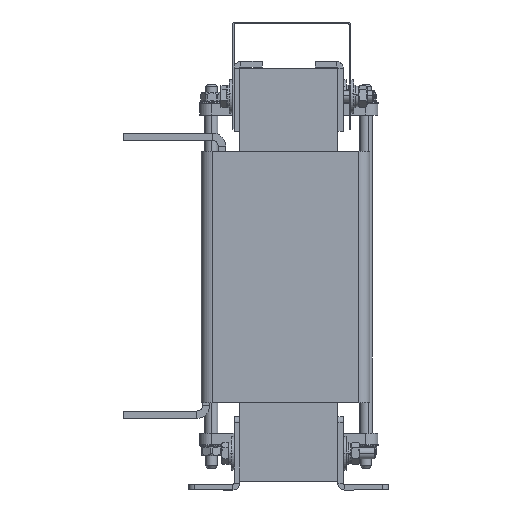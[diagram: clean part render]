
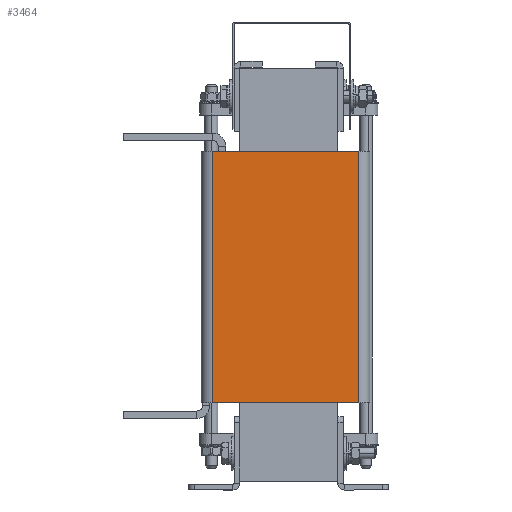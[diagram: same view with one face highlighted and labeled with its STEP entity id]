
A CAD part, left-side view. The second image highlights one B-rep face of the part: STEP entity #3464.
In plain terms, the highlighted planar face has unit normal (-1, 0, 0).
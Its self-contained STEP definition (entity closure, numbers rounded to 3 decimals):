
#336 = EDGE_CURVE ( 'NONE', #4511, #5518, #5379, .T. ) ;
#531 = FACE_OUTER_BOUND ( 'NONE', #11763, .T. ) ;
#2752 = LINE ( 'NONE', #12313, #11754 ) ;
#2825 = EDGE_CURVE ( 'NONE', #4511, #11394, #2752, .T. ) ;
#3123 = VECTOR ( 'NONE', #7487, 1000. ) ;
#3288 = ORIENTED_EDGE ( 'NONE', *, *, #4440, .T. ) ;
#3464 = ADVANCED_FACE ( 'NONE', ( #531 ), #12237, .T. ) ;
#3611 = DIRECTION ( 'NONE',  ( 0., 0., -1. ) ) ;
#3729 = ORIENTED_EDGE ( 'NONE', *, *, #2825, .T. ) ;
#4191 = CARTESIAN_POINT ( 'NONE',  ( -44.5, 77.5, 0. ) ) ;
#4440 = EDGE_CURVE ( 'NONE', #5112, #5518, #6980, .T. ) ;
#4511 = VERTEX_POINT ( 'NONE', #11141 ) ;
#5112 = VERTEX_POINT ( 'NONE', #12564 ) ;
#5372 = ORIENTED_EDGE ( 'NONE', *, *, #12470, .T. ) ;
#5379 = LINE ( 'NONE', #4191, #3123 ) ;
#5518 = VERTEX_POINT ( 'NONE', #10309 ) ;
#5846 = DIRECTION ( 'NONE',  ( 0., -1., 0. ) ) ;
#5921 = CARTESIAN_POINT ( 'NONE',  ( -44.5, 77.5, -223. ) ) ;
#6980 = LINE ( 'NONE', #8969, #11629 ) ;
#7081 = DIRECTION ( 'NONE',  ( -1., 0., 0. ) ) ;
#7487 = DIRECTION ( 'NONE',  ( 0., -1., 0. ) ) ;
#7829 = DIRECTION ( 'NONE',  ( 0., 0., 1. ) ) ;
#8969 = CARTESIAN_POINT ( 'NONE',  ( -44.5, -62., -223. ) ) ;
#9576 = ORIENTED_EDGE ( 'NONE', *, *, #336, .F. ) ;
#10072 = LINE ( 'NONE', #5921, #12119 ) ;
#10309 = CARTESIAN_POINT ( 'NONE',  ( -44.5, -62., 0. ) ) ;
#10834 = AXIS2_PLACEMENT_3D ( 'NONE', #11111, #7081, #13415 ) ;
#11111 = CARTESIAN_POINT ( 'NONE',  ( -44.5, 77.5, -223. ) ) ;
#11141 = CARTESIAN_POINT ( 'NONE',  ( -44.5, 67.5, 0. ) ) ;
#11394 = VERTEX_POINT ( 'NONE', #12908 ) ;
#11629 = VECTOR ( 'NONE', #7829, 1000. ) ;
#11754 = VECTOR ( 'NONE', #3611, 1000. ) ;
#11763 = EDGE_LOOP ( 'NONE', ( #9576, #3729, #5372, #3288 ) ) ;
#12119 = VECTOR ( 'NONE', #5846, 1000. ) ;
#12237 = PLANE ( 'NONE',  #10834 ) ;
#12313 = CARTESIAN_POINT ( 'NONE',  ( -44.5, 67.5, -223. ) ) ;
#12470 = EDGE_CURVE ( 'NONE', #11394, #5112, #10072, .T. ) ;
#12564 = CARTESIAN_POINT ( 'NONE',  ( -44.5, -62., -223. ) ) ;
#12908 = CARTESIAN_POINT ( 'NONE',  ( -44.5, 67.5, -223. ) ) ;
#13415 = DIRECTION ( 'NONE',  ( 0., 0., 1. ) ) ;
